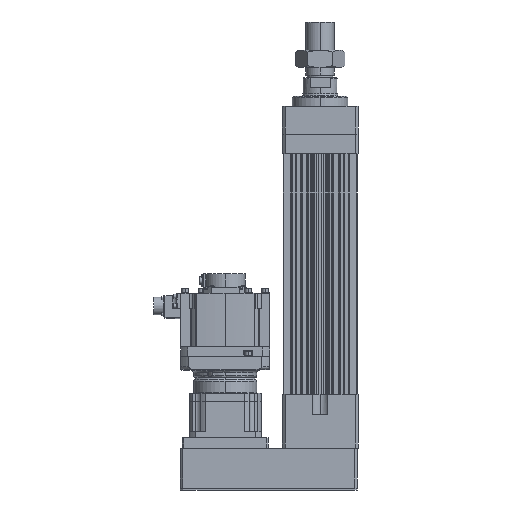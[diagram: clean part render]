
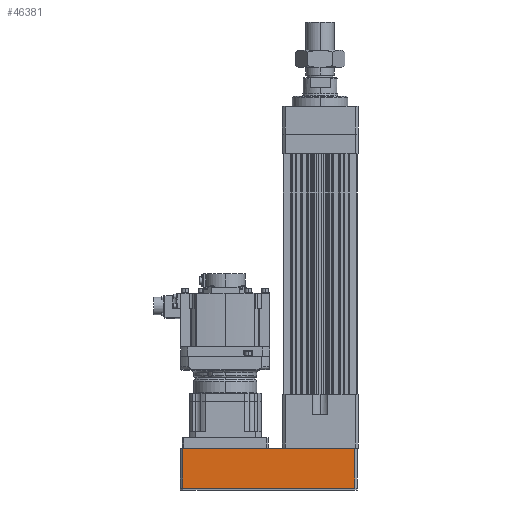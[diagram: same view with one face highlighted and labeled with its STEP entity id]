
A CAD part, left-side view. The second image highlights one B-rep face of the part: STEP entity #46381.
In plain terms, the highlighted planar face has unit normal (-1, 0, 0).
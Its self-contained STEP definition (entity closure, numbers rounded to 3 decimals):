
#88 = CARTESIAN_POINT ( 'NONE',  ( -73.5, 271.5, -186. ) ) ;
#4211 = DIRECTION ( 'NONE',  ( 0., 1., 0. ) ) ;
#4333 = VERTEX_POINT ( 'NONE', #31953 ) ;
#5450 = VERTEX_POINT ( 'NONE', #12612 ) ;
#7477 = EDGE_CURVE ( 'NONE', #5450, #4333, #25092, .T. ) ;
#8478 = VERTEX_POINT ( 'NONE', #10382 ) ;
#10382 = CARTESIAN_POINT ( 'NONE',  ( -73.5, 271.5, -185.5 ) ) ;
#12275 = DIRECTION ( 'NONE',  ( 1., 0., 0. ) ) ;
#12440 = DIRECTION ( 'NONE',  ( 0., 0., 1. ) ) ;
#12612 = CARTESIAN_POINT ( 'NONE',  ( -73.5, -68.5, -106.5 ) ) ;
#12808 = ORIENTED_EDGE ( 'NONE', *, *, #33321, .T. ) ;
#13813 = CARTESIAN_POINT ( 'NONE',  ( -73.5, -68.5, -106.5 ) ) ;
#14252 = VECTOR ( 'NONE', #46533, 1000. ) ;
#16446 = VECTOR ( 'NONE', #22765, 1000. ) ;
#19880 = ORIENTED_EDGE ( 'NONE', *, *, #37415, .T. ) ;
#22279 = ORIENTED_EDGE ( 'NONE', *, *, #7477, .T. ) ;
#22765 = DIRECTION ( 'NONE',  ( 0., 0., 1. ) ) ;
#23007 = VERTEX_POINT ( 'NONE', #30178 ) ;
#23077 = VECTOR ( 'NONE', #52388, 1000. ) ;
#24547 = PLANE ( 'NONE',  #39373 ) ;
#25092 = LINE ( 'NONE', #13813, #14252 ) ;
#26338 = FACE_OUTER_BOUND ( 'NONE', #36825, .T. ) ;
#27089 = EDGE_CURVE ( 'NONE', #8478, #4333, #29031, .T. ) ;
#28449 = VECTOR ( 'NONE', #12440, 1000. ) ;
#29031 = LINE ( 'NONE', #88, #28449 ) ;
#30178 = CARTESIAN_POINT ( 'NONE',  ( -73.5, -68.5, -185.5 ) ) ;
#31340 = LINE ( 'NONE', #47370, #23077 ) ;
#31953 = CARTESIAN_POINT ( 'NONE',  ( -73.5, 271.5, -106.5 ) ) ;
#33321 = EDGE_CURVE ( 'NONE', #8478, #23007, #31340, .T. ) ;
#35404 = CARTESIAN_POINT ( 'NONE',  ( -73.5, -68.5, -186. ) ) ;
#36825 = EDGE_LOOP ( 'NONE', ( #52870, #12808, #19880, #22279 ) ) ;
#37415 = EDGE_CURVE ( 'NONE', #23007, #5450, #47676, .T. ) ;
#39373 = AXIS2_PLACEMENT_3D ( 'NONE', #48781, #12275, #4211 ) ;
#46381 = ADVANCED_FACE ( 'NONE', ( #26338 ), #24547, .F. ) ;
#46533 = DIRECTION ( 'NONE',  ( 0., 1., 0. ) ) ;
#47370 = CARTESIAN_POINT ( 'NONE',  ( -73.5, -68.5, -185.5 ) ) ;
#47676 = LINE ( 'NONE', #35404, #16446 ) ;
#48781 = CARTESIAN_POINT ( 'NONE',  ( -73.5, -68.5, -186. ) ) ;
#52388 = DIRECTION ( 'NONE',  ( 0., -1., 0. ) ) ;
#52870 = ORIENTED_EDGE ( 'NONE', *, *, #27089, .F. ) ;
